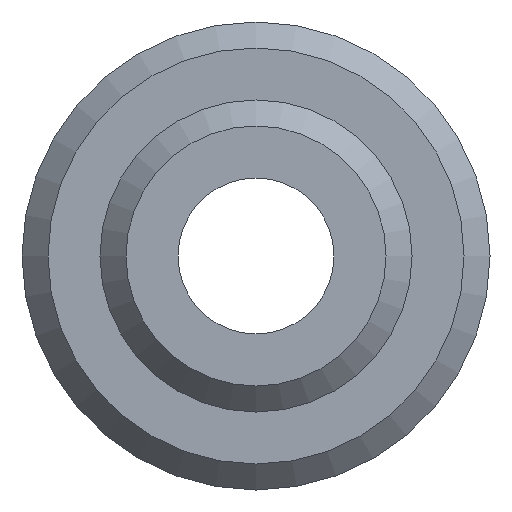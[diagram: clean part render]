
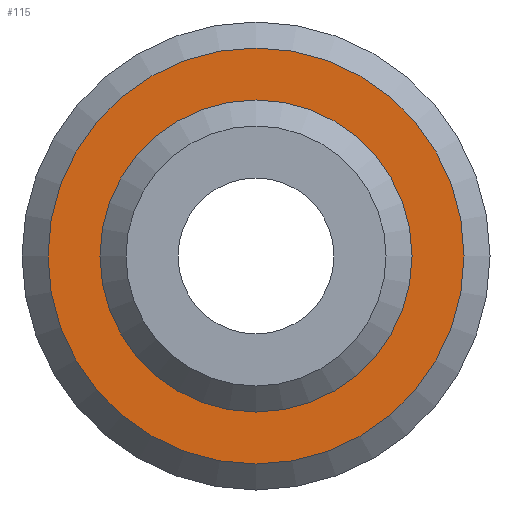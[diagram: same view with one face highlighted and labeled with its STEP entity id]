
A CAD part, front view. The second image highlights one B-rep face of the part: STEP entity #115.
In plain terms, the highlighted planar face has unit normal (0, -1, 0).
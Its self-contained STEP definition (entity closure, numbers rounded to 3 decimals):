
#73=CARTESIAN_POINT('',(-4.0,17.5,0.));
#74=VERTEX_POINT('',#73);
#75=CARTESIAN_POINT('',(0.0,17.5,0.0));
#76=DIRECTION('',(0.0,1.0,0.0));
#77=DIRECTION('',(1.0,0.0,0.0));
#78=AXIS2_PLACEMENT_3D('',#75,#76,#77);
#79=CIRCLE('',#78,4.0);
#80=EDGE_CURVE('',#74,#74,#79,.T.);
#96=CARTESIAN_POINT('',(-3.75,17.5,0.0));
#97=DIRECTION('',(0.0,-1.0,0.0));
#98=DIRECTION('',(0.0,0.0,-1.0));
#99=AXIS2_PLACEMENT_3D('',#96,#97,#98);
#100=PLANE('',#99);
#101=ORIENTED_EDGE('',*,*,#80,.F.);
#102=EDGE_LOOP('',(#101));
#103=FACE_OUTER_BOUND('',#102,.T.);
#104=CARTESIAN_POINT('',(-3.,17.5,0.0));
#105=VERTEX_POINT('',#104);
#106=CARTESIAN_POINT('',(0.0,17.5,0.0));
#107=DIRECTION('',(0.0,1.0,0.0));
#108=DIRECTION('',(-1.0,0.0,0.0));
#109=AXIS2_PLACEMENT_3D('',#106,#107,#108);
#110=CIRCLE('',#109,3.);
#111=EDGE_CURVE('',#105,#105,#110,.T.);
#112=ORIENTED_EDGE('',*,*,#111,.T.);
#113=EDGE_LOOP('',(#112));
#114=FACE_BOUND('',#113,.T.);
#115=ADVANCED_FACE('',(#103,#114),#100,.T.);
